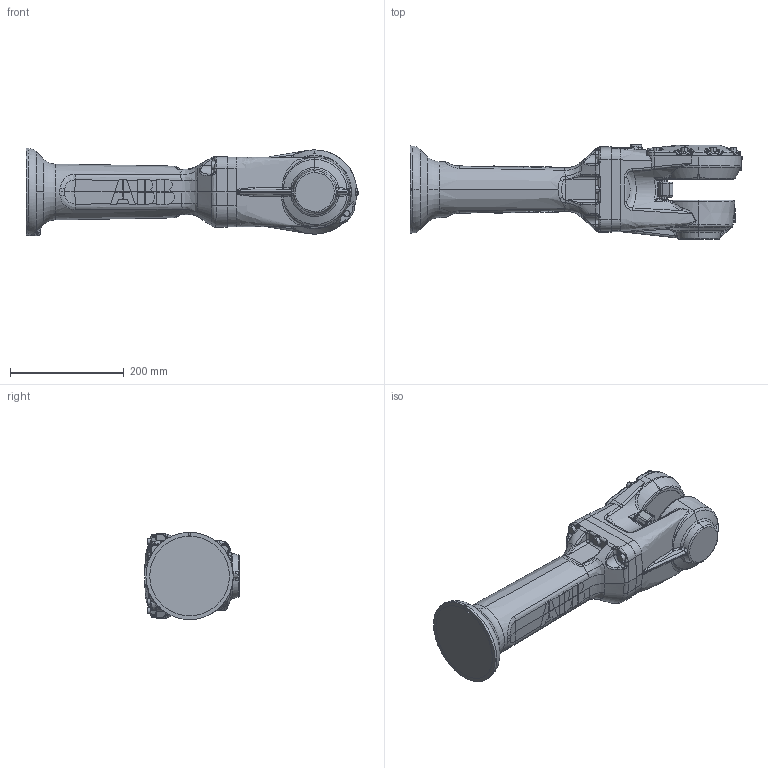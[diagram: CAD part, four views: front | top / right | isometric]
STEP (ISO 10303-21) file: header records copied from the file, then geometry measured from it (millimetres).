
FILE_DESCRIPTION (( 'STEP AP214' ), '1' );
FILE_NAME ('IRB2600_20kg-165_LINK4_CAD_rev04.STEP', '2017-01-23T10:08:59', ( 'ABB' ), ( 'ABB' ), 'SwSTEP 2.0', 'SolidWorks 2014', '' );
FILE_SCHEMA (( 'AUTOMOTIVE_DESIGN' ));
Length unit declared in the file: millimetre
Products named in the file (1): IRB2600_20kg-165_LINK4_CAD_rev04
Bounding box: 583.5 x 166.5 x 153.36 mm (x, y, z)
Volume: 6223670.5 mm3; surface area: 372104.8 mm2
Topology: 3 solids, 3 shells, 1268 faces, 3318 edges, 2043 vertices
Faces by surface type: bspline 525, plane 412, cylinder 215, cone 81, torus 33, sphere 2
Entity records: 76954 total; most frequent: CARTESIAN_POINT 47918, ORIENTED_EDGE 6562, DIRECTION 4203, EDGE_CURVE 3281, VERTEX_POINT 2043, AXIS2_PLACEMENT_3D 1538, EDGE_LOOP 1296, B_SPLINE_CURVE_WITH_KNOTS 1272
